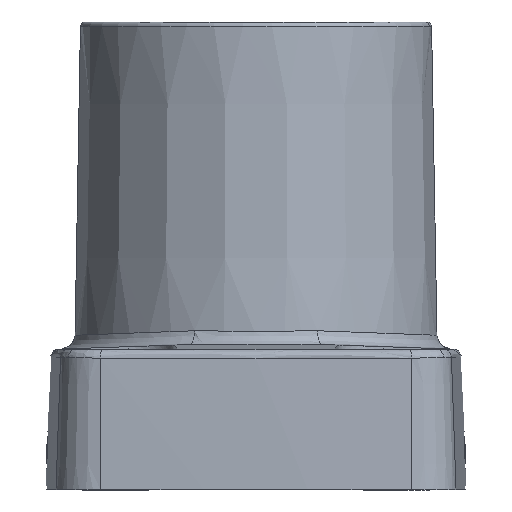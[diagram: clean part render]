
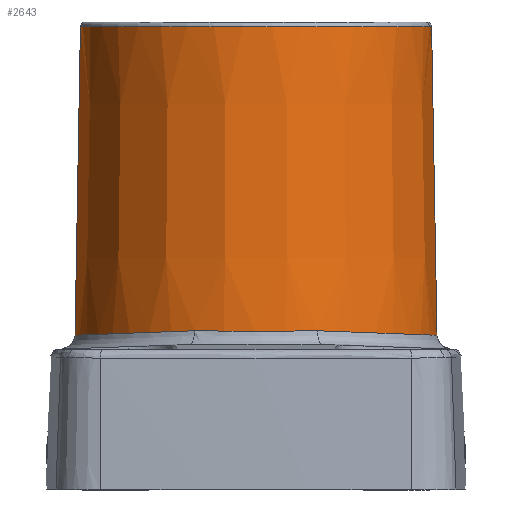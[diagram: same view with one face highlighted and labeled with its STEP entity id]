
A CAD part, front view. The second image highlights one B-rep face of the part: STEP entity #2643.
In plain terms, the highlighted conical face has half-angle 1 degrees and reference radius 37.5 mm.
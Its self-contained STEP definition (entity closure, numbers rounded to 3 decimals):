
#1273=CARTESIAN_POINT('Vertex',(-13.147,-36.347,34.026)) ;
#1277=CARTESIAN_POINT('Control Point',(-13.147,-36.347,34.026)) ;
#1278=CARTESIAN_POINT('Control Point',(-16.955,-34.972,33.883)) ;
#1279=CARTESIAN_POINT('Control Point',(-20.583,-33.099,33.746)) ;
#1280=CARTESIAN_POINT('Control Point',(-23.944,-30.758,33.62)) ;
#1281=CARTESIAN_POINT('Control Point',(-30.99,-24.323,33.355)) ;
#1282=CARTESIAN_POINT('Control Point',(-35.823,-16.02,33.173)) ;
#1283=CARTESIAN_POINT('Control Point',(-37.72,-10.828,33.102)) ;
#1284=CARTESIAN_POINT('Control Point',(-38.668,-5.414,33.066)) ;
#1285=CARTESIAN_POINT('Control Point',(-38.668,0.,33.066)) ;
#1286=CARTESIAN_POINT('Vertex',(-38.668,0.,33.066)) ;
#1783=CARTESIAN_POINT('Vertex',(38.668,0.,33.066)) ;
#1787=CARTESIAN_POINT('Control Point',(38.668,0.,33.066)) ;
#1788=CARTESIAN_POINT('Control Point',(38.668,-6.091,33.066)) ;
#1789=CARTESIAN_POINT('Control Point',(37.469,-12.182,33.111)) ;
#1790=CARTESIAN_POINT('Control Point',(35.067,-17.957,33.201)) ;
#1791=CARTESIAN_POINT('Control Point',(29.672,-25.951,33.404)) ;
#1792=CARTESIAN_POINT('Control Point',(22.238,-31.892,33.684)) ;
#1793=CARTESIAN_POINT('Control Point',(19.366,-33.711,33.792)) ;
#1794=CARTESIAN_POINT('Control Point',(16.319,-35.202,33.907)) ;
#1795=CARTESIAN_POINT('Control Point',(13.147,-36.347,34.026)) ;
#1796=CARTESIAN_POINT('Vertex',(13.147,-36.347,34.026)) ;
#1877=CARTESIAN_POINT('Control Point',(-13.147,-36.347,34.026)) ;
#1878=CARTESIAN_POINT('Control Point',(-8.102,-38.173,33.957)) ;
#1879=CARTESIAN_POINT('Control Point',(-2.739,-39.124,33.922)) ;
#1880=CARTESIAN_POINT('Control Point',(2.739,-39.124,33.922)) ;
#1881=CARTESIAN_POINT('Control Point',(8.102,-38.173,33.957)) ;
#1882=CARTESIAN_POINT('Control Point',(13.147,-36.347,34.026)) ;
#2603=CARTESIAN_POINT('Axis2P3D Location',(0.,0.,100.)) ;
#2608=CARTESIAN_POINT('Line Origine',(8744.953,0.,-498749.661)) ;
#2612=CARTESIAN_POINT('Vertex',(37.517,0.,99.017)) ;
#2615=CARTESIAN_POINT('Axis2P3D Location',(0.,0.,99.017)) ;
#2619=CARTESIAN_POINT('Vertex',(37.098,-5.593,99.017)) ;
#2622=CARTESIAN_POINT('Axis2P3D Location',(0.,0.,99.017)) ;
#2626=CARTESIAN_POINT('Vertex',(-37.517,0.,99.017)) ;
#2629=CARTESIAN_POINT('Line Origine',(-8744.953,0.,-498749.661)) ;
#2604=DIRECTION('Axis2P3D Direction',(-0.,-0.,-1.)) ;
#2605=DIRECTION('Axis2P3D XDirection',(1.,0.,0.)) ;
#2609=DIRECTION('Vector Direction',(0.017,0.,-1.)) ;
#2616=DIRECTION('Axis2P3D Direction',(-0.,0.,-1.)) ;
#2623=DIRECTION('Axis2P3D Direction',(-0.,0.,-1.)) ;
#2630=DIRECTION('Vector Direction',(-0.017,0.,-1.)) ;
#2606=AXIS2_PLACEMENT_3D('Cone Axis2P3D',#2603,#2604,#2605) ;
#2617=AXIS2_PLACEMENT_3D('Circle Axis2P3D',#2615,#2616,$) ;
#2624=AXIS2_PLACEMENT_3D('Circle Axis2P3D',#2622,#2623,$) ;
#2635=ORIENTED_EDGE('',*,*,#2614,.T.) ;
#2636=ORIENTED_EDGE('',*,*,#2621,.F.) ;
#2637=ORIENTED_EDGE('',*,*,#2628,.F.) ;
#2638=ORIENTED_EDGE('',*,*,#2633,.F.) ;
#2639=ORIENTED_EDGE('',*,*,#1288,.T.) ;
#2640=ORIENTED_EDGE('',*,*,#1883,.T.) ;
#2641=ORIENTED_EDGE('',*,*,#1798,.T.) ;
#2610=VECTOR('Line Direction',#2609,1.) ;
#2631=VECTOR('Line Direction',#2630,1.) ;
#2643=ADVANCED_FACE('Brep With Voids',(#2642),#2607,.T.) ;
#1276=B_SPLINE_CURVE_WITH_KNOTS('',5,(#1277,#1278,#1279,#1280,#1281,#1282,#1283,#1284,#1285),.UNSPECIFIED.,.F.,.U.,(6,3,6),(142.703,163.75,191.877),.UNSPECIFIED.) ;
#1786=B_SPLINE_CURVE_WITH_KNOTS('',5,(#1787,#1788,#1789,#1790,#1791,#1792,#1793,#1794,#1795),.UNSPECIFIED.,.F.,.U.,(6,3,6),(80.102,111.791,129.348),.UNSPECIFIED.) ;
#1876=B_SPLINE_CURVE_WITH_KNOTS('',5,(#1877,#1878,#1879,#1880,#1881,#1882),.UNSPECIFIED.,.F.,.U.,(6,6),(103.825,131.757),.UNSPECIFIED.) ;
#2618=CIRCLE('generated circle',#2617,37.517) ;
#2625=CIRCLE('generated circle',#2624,37.517) ;
#2607=CONICAL_SURFACE('Cone',#2606,37.5,0.017) ;
#1288=EDGE_CURVE('',#1287,#1274,#1276,.F.) ;
#1798=EDGE_CURVE('',#1797,#1784,#1786,.F.) ;
#1883=EDGE_CURVE('',#1274,#1797,#1876,.T.) ;
#2614=EDGE_CURVE('',#1784,#2613,#2611,.F.) ;
#2621=EDGE_CURVE('',#2620,#2613,#2618,.F.) ;
#2628=EDGE_CURVE('',#2627,#2620,#2625,.F.) ;
#2633=EDGE_CURVE('',#1287,#2627,#2632,.F.) ;
#2634=EDGE_LOOP('',(#2635,#2636,#2637,#2638,#2639,#2640,#2641)) ;
#2642=FACE_OUTER_BOUND('',#2634,.T.) ;
#2611=LINE('Line',#2608,#2610) ;
#2632=LINE('Line',#2629,#2631) ;
#1274=VERTEX_POINT('',#1273) ;
#1287=VERTEX_POINT('',#1286) ;
#1784=VERTEX_POINT('',#1783) ;
#1797=VERTEX_POINT('',#1796) ;
#2613=VERTEX_POINT('',#2612) ;
#2620=VERTEX_POINT('',#2619) ;
#2627=VERTEX_POINT('',#2626) ;
